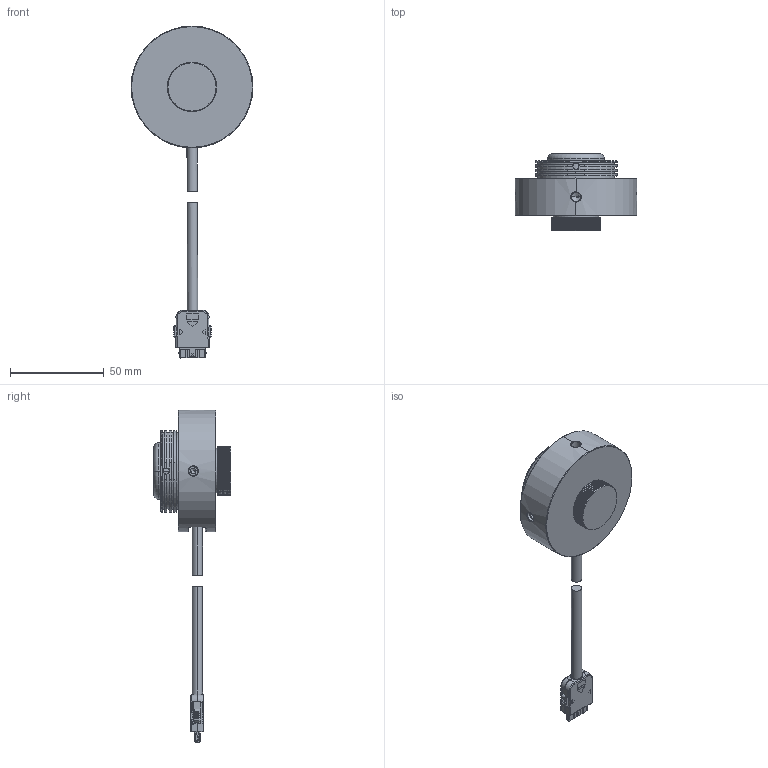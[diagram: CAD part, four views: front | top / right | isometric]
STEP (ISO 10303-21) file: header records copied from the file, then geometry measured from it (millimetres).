
FILE_DESCRIPTION (( 'STEP AP214' ), '1' );
FILE_NAME ('电动反射镜夹具装配.STEP', '2026-09-09T03:56:34', ( '' ), ( '' ), 'SwSTEP 2.0', 'SolidWorks 2024', '' );
FILE_SCHEMA (( 'AUTOMOTIVE_DESIGN' ));
Length unit declared in the file: millimetre
Products named in the file (13): 142-793-XX - ENVELOPE_Blocked sight.STEP; Rev-0-00_MR-E-3 Head Unit.STEP; ST40X-18S-CV_184-061-00.STEP; ST40X-18S-CV-_X_8AÈ_X_88Õ_ST40X-18S-CV_184-061-00.STEP; 139-508-01_01.STEP; hex socket set screws with flat point gb_GB_FASTENER_SCREWS_HSFP M6X8-N; 141-845-00_184-061-00.STEP; 电动反射镜夹具装配; 141-825-00.STEP; 184-061-00.STEP; 电动反射镜夹具; 139-506-00_01.STEP; DF20A-20DS-1C_184-061-00.STEP
Assembly tree (13 placements, depth 5):
  电动反射镜夹具装配
    电动反射镜夹具
    Rev-0-00_MR-E-3 Head Unit.STEP
      184-061-00.STEP
        ST40X-18S-CV_184-061-00.STEP
          ST40X-18S-CV-_X_8AÈ_X_88Õ_ST40X-18S-CV_184-061-00.STEP
        141-825-00.STEP
        141-845-00_184-061-00.STEP
        DF20A-20DS-1C_184-061-00.STEP
      139-506-00_01.STEP
      139-508-01_01.STEP
      142-793-XX - ENVELOPE_Blocked sight.STEP
    hex socket set screws with flat point gb_GB_FASTENER_SCREWS_HSFP M6X8-N  x2
Bounding box: 65 x 41.34 x 177.01 mm (x, y, z)
Volume: 72573.6 mm3; surface area: 44809.8 mm2
Topology: 32 solids, 32 shells, 2031 faces, 5246 edges, 3389 vertices
Faces by surface type: plane 1050, cylinder 555, bspline 268, torus 90, cone 68
Entity records: 90070 total; most frequent: CARTESIAN_POINT 42320, ORIENTED_EDGE 10368, DIRECTION 8820, EDGE_CURVE 5184, VERTEX_POINT 3360, LINE 2992, VECTOR 2992, AXIS2_PLACEMENT_3D 2914
